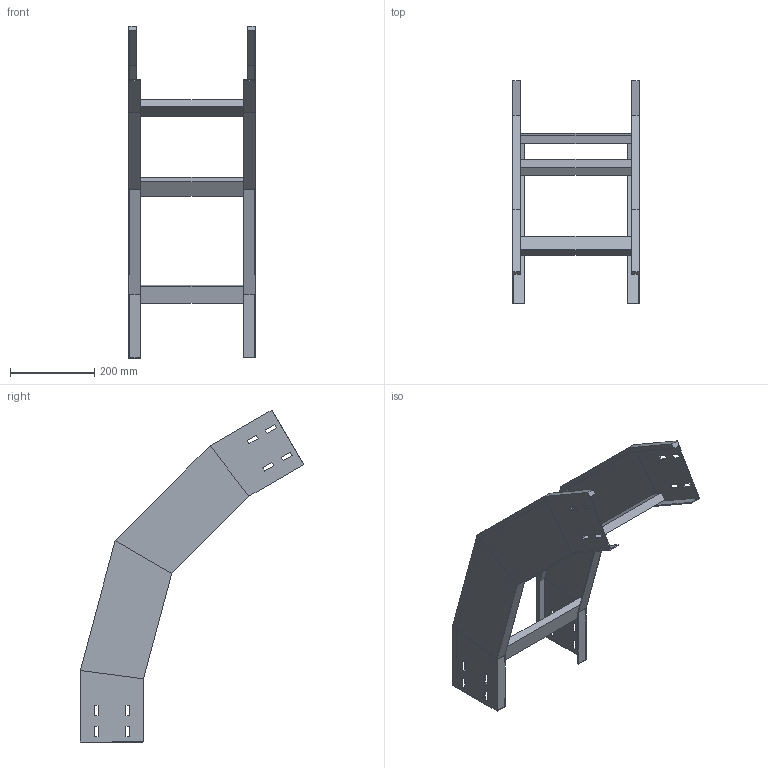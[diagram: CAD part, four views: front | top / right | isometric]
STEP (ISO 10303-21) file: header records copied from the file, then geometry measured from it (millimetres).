
FILE_DESCRIPTION (( 'STEP AP214' ), '1' );
FILE_NAME ('41J5F300.step', '2025-02-21T16:22:30', ( '' ), ( '' ), 'SwSTEP 2.0', 'SolidWorks 2023', '' );
FILE_SCHEMA (( 'AUTOMOTIVE_DESIGN' ));
Length unit declared in the file: millimetre
Products named in the file (3): LONGH.DISCESA_60°_H150_R500; TRAVERSINO_300; 41J5F300
Assembly tree (5 placements, depth 2):
  41J5F300
    LONGH.DISCESA_60°_H150_R500  x2
    TRAVERSINO_300  x3
Bounding box: 300 x 530.08 x 788.22 mm (x, y, z)
Volume: 1705463.6 mm3; surface area: 799296.7 mm2
Topology: 5 solids, 5 shells, 150 faces, 372 edges, 232 vertices
Faces by surface type: plane 150
Entity records: 2216 total; most frequent: CARTESIAN_POINT 372, ORIENTED_EDGE 360, DIRECTION 340, EDGE_CURVE 180, VECTOR 180, LINE 180, VERTEX_POINT 112, EDGE_LOOP 88
